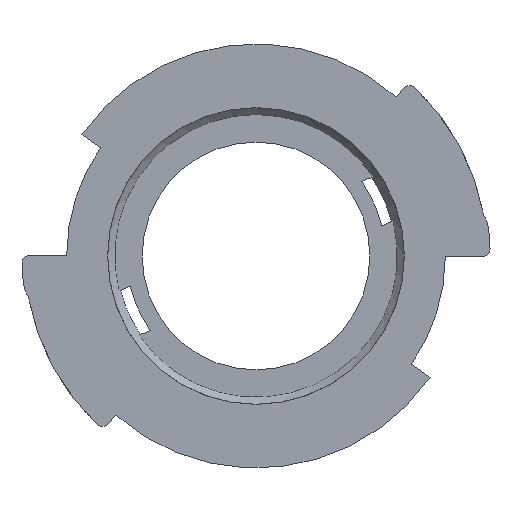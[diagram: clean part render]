
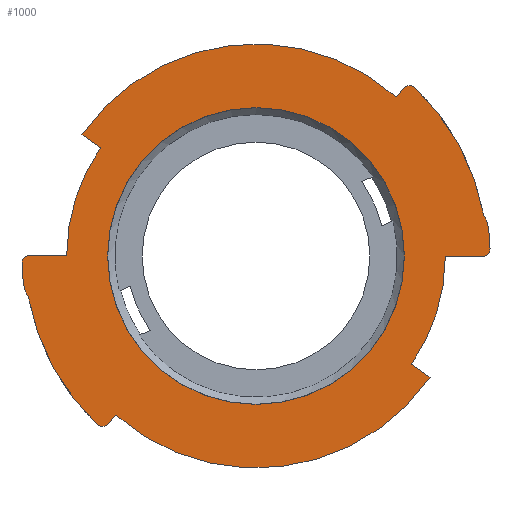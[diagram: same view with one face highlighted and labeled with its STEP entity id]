
A CAD part, front view. The second image highlights one B-rep face of the part: STEP entity #1000.
In plain terms, the highlighted planar face has unit normal (0, -1, 0).
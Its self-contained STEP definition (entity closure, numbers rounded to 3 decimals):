
#95=FACE_BOUND('',#286,.T.);
#116=LINE('',#1662,#165);
#118=LINE('',#1685,#167);
#119=LINE('',#1689,#168);
#120=LINE('',#1693,#169);
#121=LINE('',#1705,#170);
#122=LINE('',#1709,#171);
#165=VECTOR('',#1277,10.);
#167=VECTOR('',#1289,10.);
#168=VECTOR('',#1292,10.);
#169=VECTOR('',#1295,10.);
#170=VECTOR('',#1306,10.);
#171=VECTOR('',#1309,10.);
#201=PLANE('',#1094);
#230=FACE_OUTER_BOUND('',#285,.T.);
#285=EDGE_LOOP('',(#762,#763,#764,#765,#766,#767,#768,#769,#770,#771,#772,
#773,#774,#775,#776,#777,#778,#779,#780,#781));
#286=EDGE_LOOP('',(#782));
#347=CIRCLE('',#1091,0.535);
#349=CIRCLE('',#1095,16.735);
#350=CIRCLE('',#1096,2.035);
#351=CIRCLE('',#1097,16.535);
#352=CIRCLE('',#1098,0.535);
#353=CIRCLE('',#1099,15.16);
#354=CIRCLE('',#1100,13.535);
#355=CIRCLE('',#1101,0.535);
#356=CIRCLE('',#1102,16.735);
#357=CIRCLE('',#1103,2.035);
#358=CIRCLE('',#1104,16.535);
#359=CIRCLE('',#1105,0.535);
#360=CIRCLE('',#1106,15.16);
#361=CIRCLE('',#1107,13.535);
#362=CIRCLE('',#1108,10.61);
#432=VERTEX_POINT('',#1652);
#433=VERTEX_POINT('',#1653);
#436=VERTEX_POINT('',#1661);
#439=VERTEX_POINT('',#1676);
#440=VERTEX_POINT('',#1678);
#441=VERTEX_POINT('',#1680);
#442=VERTEX_POINT('',#1682);
#443=VERTEX_POINT('',#1684);
#444=VERTEX_POINT('',#1686);
#445=VERTEX_POINT('',#1688);
#446=VERTEX_POINT('',#1690);
#447=VERTEX_POINT('',#1692);
#448=VERTEX_POINT('',#1694);
#449=VERTEX_POINT('',#1696);
#450=VERTEX_POINT('',#1698);
#451=VERTEX_POINT('',#1700);
#452=VERTEX_POINT('',#1702);
#453=VERTEX_POINT('',#1704);
#454=VERTEX_POINT('',#1706);
#455=VERTEX_POINT('',#1708);
#456=VERTEX_POINT('',#1711);
#556=EDGE_CURVE('',#432,#433,#347,.F.);
#560=EDGE_CURVE('',#436,#433,#116,.T.);
#565=EDGE_CURVE('',#439,#432,#349,.F.);
#566=EDGE_CURVE('',#440,#439,#350,.F.);
#567=EDGE_CURVE('',#440,#441,#351,.T.);
#568=EDGE_CURVE('',#441,#442,#352,.T.);
#569=EDGE_CURVE('',#442,#443,#118,.T.);
#570=EDGE_CURVE('',#444,#443,#353,.F.);
#571=EDGE_CURVE('',#445,#444,#119,.T.);
#572=EDGE_CURVE('',#445,#446,#354,.T.);
#573=EDGE_CURVE('',#446,#447,#120,.T.);
#574=EDGE_CURVE('',#448,#447,#355,.F.);
#575=EDGE_CURVE('',#449,#448,#356,.F.);
#576=EDGE_CURVE('',#450,#449,#357,.F.);
#577=EDGE_CURVE('',#450,#451,#358,.T.);
#578=EDGE_CURVE('',#451,#452,#359,.T.);
#579=EDGE_CURVE('',#452,#453,#121,.T.);
#580=EDGE_CURVE('',#454,#453,#360,.F.);
#581=EDGE_CURVE('',#454,#455,#122,.F.);
#582=EDGE_CURVE('',#455,#436,#361,.T.);
#583=EDGE_CURVE('',#456,#456,#362,.T.);
#762=ORIENTED_EDGE('',*,*,#556,.F.);
#763=ORIENTED_EDGE('',*,*,#565,.F.);
#764=ORIENTED_EDGE('',*,*,#566,.F.);
#765=ORIENTED_EDGE('',*,*,#567,.T.);
#766=ORIENTED_EDGE('',*,*,#568,.T.);
#767=ORIENTED_EDGE('',*,*,#569,.T.);
#768=ORIENTED_EDGE('',*,*,#570,.F.);
#769=ORIENTED_EDGE('',*,*,#571,.F.);
#770=ORIENTED_EDGE('',*,*,#572,.T.);
#771=ORIENTED_EDGE('',*,*,#573,.T.);
#772=ORIENTED_EDGE('',*,*,#574,.F.);
#773=ORIENTED_EDGE('',*,*,#575,.F.);
#774=ORIENTED_EDGE('',*,*,#576,.F.);
#775=ORIENTED_EDGE('',*,*,#577,.T.);
#776=ORIENTED_EDGE('',*,*,#578,.T.);
#777=ORIENTED_EDGE('',*,*,#579,.T.);
#778=ORIENTED_EDGE('',*,*,#580,.F.);
#779=ORIENTED_EDGE('',*,*,#581,.T.);
#780=ORIENTED_EDGE('',*,*,#582,.T.);
#781=ORIENTED_EDGE('',*,*,#560,.T.);
#782=ORIENTED_EDGE('',*,*,#583,.T.);
#1000=ADVANCED_FACE('',(#230,#95),#201,.F.);
#1091=AXIS2_PLACEMENT_3D('',#1654,#1269,#1270);
#1094=AXIS2_PLACEMENT_3D('',#1675,#1279,#1280);
#1095=AXIS2_PLACEMENT_3D('',#1677,#1281,#1282);
#1096=AXIS2_PLACEMENT_3D('',#1679,#1283,#1284);
#1097=AXIS2_PLACEMENT_3D('',#1681,#1285,#1286);
#1098=AXIS2_PLACEMENT_3D('',#1683,#1287,#1288);
#1099=AXIS2_PLACEMENT_3D('',#1687,#1290,#1291);
#1100=AXIS2_PLACEMENT_3D('',#1691,#1293,#1294);
#1101=AXIS2_PLACEMENT_3D('',#1695,#1296,#1297);
#1102=AXIS2_PLACEMENT_3D('',#1697,#1298,#1299);
#1103=AXIS2_PLACEMENT_3D('',#1699,#1300,#1301);
#1104=AXIS2_PLACEMENT_3D('',#1701,#1302,#1303);
#1105=AXIS2_PLACEMENT_3D('',#1703,#1304,#1305);
#1106=AXIS2_PLACEMENT_3D('',#1707,#1307,#1308);
#1107=AXIS2_PLACEMENT_3D('',#1710,#1310,#1311);
#1108=AXIS2_PLACEMENT_3D('',#1712,#1312,#1313);
#1269=DIRECTION('center_axis',(0.,-1.,0.));
#1270=DIRECTION('ref_axis',(-0.718,0.,0.696));
#1277=DIRECTION('',(-1.,0.,0.));
#1279=DIRECTION('center_axis',(0.,1.,0.));
#1280=DIRECTION('ref_axis',(0.,0.,1.));
#1281=DIRECTION('center_axis',(0.,-1.,0.));
#1282=DIRECTION('ref_axis',(-0.993,0.,-0.121));
#1283=DIRECTION('center_axis',(0.,-1.,0.));
#1284=DIRECTION('ref_axis',(-0.825,0.,-0.566));
#1285=DIRECTION('center_axis',(0.,-1.,0.));
#1286=DIRECTION('ref_axis',(0.,0.,-1.));
#1287=DIRECTION('center_axis',(0.,-1.,0.));
#1288=DIRECTION('ref_axis',(0.,0.,-1.));
#1289=DIRECTION('',(0.663,0.,0.749));
#1290=DIRECTION('center_axis',(0.,-1.,0.));
#1291=DIRECTION('ref_axis',(0.819,0.,-0.574));
#1292=DIRECTION('',(0.819,0.,-0.574));
#1293=DIRECTION('center_axis',(0.,-1.,0.));
#1294=DIRECTION('ref_axis',(0.,0.,-1.));
#1295=DIRECTION('',(1.,0.,0.));
#1296=DIRECTION('center_axis',(0.,-1.,0.));
#1297=DIRECTION('ref_axis',(0.718,0.,-0.696));
#1298=DIRECTION('center_axis',(0.,-1.,0.));
#1299=DIRECTION('ref_axis',(0.993,0.,0.121));
#1300=DIRECTION('center_axis',(0.,-1.,0.));
#1301=DIRECTION('ref_axis',(0.825,0.,0.566));
#1302=DIRECTION('center_axis',(0.,-1.,0.));
#1303=DIRECTION('ref_axis',(0.,0.,-1.));
#1304=DIRECTION('center_axis',(0.,-1.,0.));
#1305=DIRECTION('ref_axis',(0.,0.,-1.));
#1306=DIRECTION('',(-0.663,0.,-0.749));
#1307=DIRECTION('center_axis',(0.,-1.,0.));
#1308=DIRECTION('ref_axis',(-0.819,0.,0.574));
#1309=DIRECTION('',(-0.819,0.,0.574));
#1310=DIRECTION('center_axis',(0.,-1.,0.));
#1311=DIRECTION('ref_axis',(0.,0.,-1.));
#1312=DIRECTION('center_axis',(0.,1.,0.));
#1313=DIRECTION('ref_axis',(0.,0.,1.));
#1652=CARTESIAN_POINT('',(-16.727,0.,-0.517));
#1653=CARTESIAN_POINT('',(-16.192,0.,0.035));
#1654=CARTESIAN_POINT('Origin',(-16.192,0.,-0.5));
#1661=CARTESIAN_POINT('',(-13.535,0.,0.035));
#1662=CARTESIAN_POINT('',(0.,0.,0.035));
#1675=CARTESIAN_POINT('Origin',(0.,0.,0.));
#1676=CARTESIAN_POINT('',(-16.612,0.,-2.028));
#1677=CARTESIAN_POINT('Origin',(0.,0.,0.));
#1678=CARTESIAN_POINT('',(-16.274,0.,-2.927));
#1679=CARTESIAN_POINT('Origin',(-14.592,0.,-1.782));
#1680=CARTESIAN_POINT('',(-11.338,0.,-12.035));
#1681=CARTESIAN_POINT('Origin',(0.,0.,0.));
#1682=CARTESIAN_POINT('',(-10.571,0.,-12.001));
#1683=CARTESIAN_POINT('Origin',(-10.971,0.,-11.646));
#1684=CARTESIAN_POINT('',(-10.019,0.,-11.377));
#1685=CARTESIAN_POINT('',(0.026,0.,-0.023));
#1686=CARTESIAN_POINT('',(12.438,0.,-8.667));
#1687=CARTESIAN_POINT('Origin',(0.,0.,0.));
#1688=CARTESIAN_POINT('',(11.107,0.,-7.735));
#1689=CARTESIAN_POINT('',(0.02,0.,0.029));
#1690=CARTESIAN_POINT('',(13.535,0.,-0.035));
#1691=CARTESIAN_POINT('Origin',(0.,0.,0.));
#1692=CARTESIAN_POINT('',(16.192,0.,-0.035));
#1693=CARTESIAN_POINT('',(0.,0.,-0.035));
#1694=CARTESIAN_POINT('',(16.727,0.,0.517));
#1695=CARTESIAN_POINT('Origin',(16.192,0.,0.5));
#1696=CARTESIAN_POINT('',(16.612,0.,2.028));
#1697=CARTESIAN_POINT('Origin',(0.,0.,0.));
#1698=CARTESIAN_POINT('',(16.274,0.,2.927));
#1699=CARTESIAN_POINT('Origin',(14.592,0.,1.782));
#1700=CARTESIAN_POINT('',(11.338,0.,12.035));
#1701=CARTESIAN_POINT('Origin',(0.,0.,0.));
#1702=CARTESIAN_POINT('',(10.571,0.,12.001));
#1703=CARTESIAN_POINT('Origin',(10.971,0.,11.646));
#1704=CARTESIAN_POINT('',(10.019,0.,11.377));
#1705=CARTESIAN_POINT('',(-0.026,0.,0.023));
#1706=CARTESIAN_POINT('',(-12.438,0.,8.667));
#1707=CARTESIAN_POINT('Origin',(0.,0.,0.));
#1708=CARTESIAN_POINT('',(-11.107,0.,7.735));
#1709=CARTESIAN_POINT('',(-0.02,0.,-0.029));
#1710=CARTESIAN_POINT('Origin',(0.,0.,0.));
#1711=CARTESIAN_POINT('',(0.,0.,10.61));
#1712=CARTESIAN_POINT('Origin',(0.,0.,0.));
